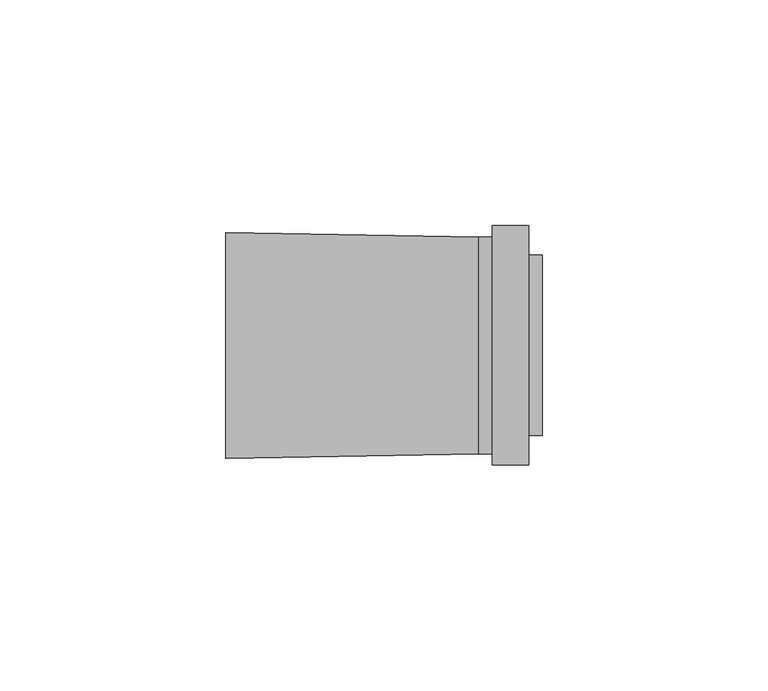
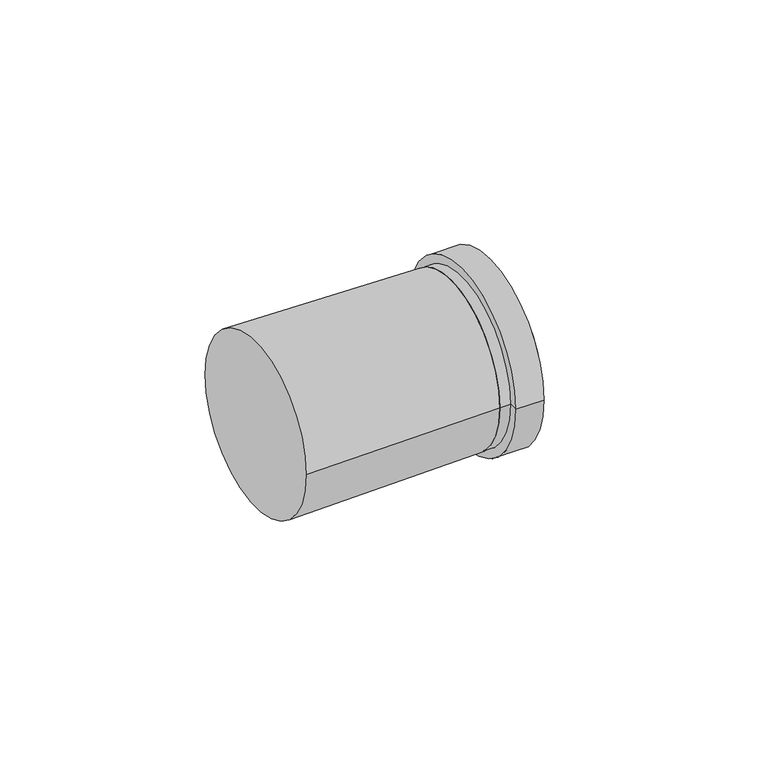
"""IFC4 building model written with IfcOpenShell, lengths in millimetres: cable carrier fitting geometry, КНС_МуфтаТрубаКоробка_IP67_DKC : Коробка."""

import ifcopenshell
import ifcopenshell.guid

model = None  # the IFC model being written
_history = None  # IfcOwnerHistory: only IFC2X3 demands one
_inside = {}  # id of a spatial element -> (the spatial element, [elements in it])
_under = {}  # id of a project, library or spatial element -> (it, [spatial elements below it])
_declared = {}  # id of a project -> (the project, [libraries it declares])
_typed = {}  # id of a type object -> (the type object, [elements of that type])
_made_of = {}  # id of a material, layer set ... -> (it, [elements and type objects made of it])


def new_model(schema):
    """Start an empty IFC model of exactly this schema.

    Asked for "IFC4X3", IfcOpenShell would pick the latest addendum, in which some entities
    have other attributes; the version numbers below select the first issue.
    IFC2X3 requires an IfcOwnerHistory on every rooted entity: one is made here for all.
    """
    global model, _history
    if schema == "IFC4X3":
        model = ifcopenshell.file(schema_version=(4, 3, 0, 0))
    else:
        model = ifcopenshell.file(schema=schema)
    _inside.clear()
    _under.clear()
    _declared.clear()
    _typed.clear()
    _made_of.clear()
    _history = None
    if model.schema == "IFC2X3":
        org = make("IfcOrganization", Name="unknown")
        user = make(
            "IfcPersonAndOrganization",
            ThePerson=make("IfcPerson", FamilyName="unknown"),
            TheOrganization=org,
        )
        app = make(
            "IfcApplication",
            ApplicationDeveloper=org,
            Version="unknown",
            ApplicationFullName="unknown",
            ApplicationIdentifier="unknown",
        )
        _history = make(
            "IfcOwnerHistory",
            OwningUser=user,
            OwningApplication=app,
            ChangeAction="ADDED",
            CreationDate=0,
        )
    return model


def make(cls, **values):
    """One entity of the class cls with the attributes given. An attribute that is None is left unset."""
    return model.create_entity(
        cls, **{name: value for name, value in values.items() if value is not None}
    )


def rooted(cls, **values):
    """An entity with a GlobalId (a new one), such as an element, a storey or a relation."""
    return make(cls, GlobalId=ifcopenshell.guid.new(), OwnerHistory=_history, **values)


def si_unit(unit_type, name, prefix=None):
    """IfcSIUnit, for example si_unit("LENGTHUNIT", "METRE", prefix="MILLI")."""
    return make("IfcSIUnit", UnitType=unit_type, Prefix=prefix, Name=name)


def assignment(units):
    """IfcUnitAssignment: the units of a project."""
    return None if units is None else make("IfcUnitAssignment", Units=units)


def point(xyz):
    """IfcCartesianPoint."""
    return None if xyz is None else make("IfcCartesianPoint", Coordinates=xyz)


def direction(xyz):
    """IfcDirection."""
    return None if xyz is None else make("IfcDirection", DirectionRatios=xyz)


def frame(location, z_axis=None, x_axis=None):
    """IfcAxis2Placement3D, a coordinate frame: its origin and axes. An axis left out is left unset."""
    return make(
        "IfcAxis2Placement3D",
        Location=point(location),
        Axis=direction(z_axis),
        RefDirection=direction(x_axis),
    )


def origin():
    """The frame at (0, 0, 0) with its axes left unset."""
    return frame((0.0, 0.0, 0.0))


def place(relative_to, where):
    """IfcLocalPlacement: puts the frame where relative to a parent placement (None: the world)."""
    return make(
        "IfcLocalPlacement", PlacementRelTo=relative_to, RelativePlacement=where
    )


def context(
    kind, dimensions, precision=None, world=None, true_north=None, identifier=None
):
    """IfcGeometricRepresentationContext, for example the 3D "Model" context."""
    return make(
        "IfcGeometricRepresentationContext",
        ContextIdentifier=identifier,
        ContextType=kind,
        CoordinateSpaceDimension=dimensions,
        Precision=precision,
        WorldCoordinateSystem=world,
        TrueNorth=true_north,
    )


def project(units=None, contexts=None):
    """IfcProject with its units and contexts."""
    return rooted(
        "IfcProject",
        Name="project",
        RepresentationContexts=contexts,
        UnitsInContext=assignment(units),
    )


def spatial(cls, under=None, at=None, **own):
    """A site, building, storey or space (cls), placed at a placement, below another one or the project."""
    s = rooted(cls, ObjectPlacement=at, **own)
    if under is not None:
        _under.setdefault(under.id(), (under, []))[1].append(s)
    return s


def polyline(points):
    """IfcPolyline through the points."""
    return make("IfcPolyline", Points=[point(p) for p in points])


def circle_curve(where, radius):
    """IfcCircle in the frame where."""
    return make("IfcCircle", Position=where, Radius=radius)


def shape(context_of_items, identifier, shape_type, items):
    """IfcShapeRepresentation: the items that make up one representation, for example the "Body"."""
    return make(
        "IfcShapeRepresentation",
        ContextOfItems=context_of_items,
        RepresentationIdentifier=identifier,
        RepresentationType=shape_type,
        Items=items,
    )


def source(mapping_origin, context_of_items, identifier, shape_type, items):
    """IfcRepresentationMap: a shape defined once, which mapped items show again and again."""
    return make(
        "IfcRepresentationMap",
        MappingOrigin=mapping_origin,
        MappedRepresentation=shape(context_of_items, identifier, shape_type, items),
    )


def transform(
    local_origin,
    x_axis=None,
    y_axis=None,
    z_axis=None,
    scale=None,
    scale2=None,
    scale3=None,
    uniform=True,
):
    """IfcCartesianTransformationOperator3D, or its non-uniform kind. x_axis, y_axis, z_axis: its Axis1, 2, 3."""
    if uniform:
        return make(
            "IfcCartesianTransformationOperator3D",
            Axis1=direction(x_axis),
            Axis2=direction(y_axis),
            LocalOrigin=point(local_origin),
            Scale=scale,
            Axis3=direction(z_axis),
        )
    return make(
        "IfcCartesianTransformationOperator3DnonUniform",
        Axis1=direction(x_axis),
        Axis2=direction(y_axis),
        LocalOrigin=point(local_origin),
        Scale=scale,
        Axis3=direction(z_axis),
        Scale2=scale2,
        Scale3=scale3,
    )


def mapped(mapping_source, mapping_target):
    """IfcMappedItem: shows the shape of a source again, moved by a transform."""
    return make(
        "IfcMappedItem", MappingSource=mapping_source, MappingTarget=mapping_target
    )


def made_of(thing, what):
    """Note that an element or type object is made of a material, layer set ...; save() writes the relation."""
    if what is not None:
        _made_of.setdefault(what.id(), (what, []))[1].append(thing)
    return thing


def element(
    cls,
    number,
    at=None,
    inside=None,
    cuts=None,
    type_object=None,
    material=None,
    context=None,
    identifier="Body",
    shape_type=None,
    held_by="IfcProductDefinitionShape",
    body=None,
    shapes=None,
    **own,
):
    """One element of the class cls, such as IfcWall. Its Tag is "e" and its number.

    at: its placement. inside: the storey or other place that contains it. cuts: it is an
    opening in that element (IfcRelVoidsElement). A single representation is given by context,
    identifier, shape_type and body (its items); several are given by shapes. held_by: the class
    of the entity that holds the representations. save() writes the other relations.
    """
    e = rooted(cls, Tag="e%d" % number, ObjectPlacement=at, **own)
    if body is not None:
        shapes = [shape(context, identifier, shape_type, body)]
    if shapes is not None:
        e.Representation = make(held_by, Representations=shapes)
    if inside is not None:
        _inside.setdefault(inside.id(), (inside, []))[1].append(e)
    if cuts is not None:
        rooted(
            "IfcRelVoidsElement", RelatingBuildingElement=cuts, RelatedOpeningElement=e
        )
    if type_object is not None:
        _typed.setdefault(type_object.id(), (type_object, []))[1].append(e)
    return made_of(e, material)


def aggregate(whole, parts):
    """IfcRelAggregates: a whole, such as a stair, and the parts it consists of."""
    return rooted("IfcRelAggregates", RelatingObject=whole, RelatedObjects=parts)


def save(model, path):
    """Write the relations noted so far, then the file.

    IfcRelAggregates (storeys below a building ...), IfcRelContainedInSpatialStructure (elements
    in a storey), IfcRelDefinesByType, IfcRelAssociatesMaterial and IfcRelDeclares: one each for
    every whole, place, type object, material and project.
    """
    for whole, parts in _under.values():
        aggregate(whole, parts)
    for where, things in _inside.values():
        rooted(
            "IfcRelContainedInSpatialStructure",
            RelatedElements=things,
            RelatingStructure=where,
        )
    for kind, things in _typed.values():
        rooted("IfcRelDefinesByType", RelatedObjects=things, RelatingType=kind)
    for what, things in _made_of.values():
        rooted("IfcRelAssociatesMaterial", RelatedObjects=things, RelatingMaterial=what)
    for by, libraries in _declared.values():
        rooted("IfcRelDeclares", RelatingContext=by, RelatedDefinitions=libraries)
    model.write(path)


def plane_surface(at):
    """IfcPlane: the flat surface through the origin of the frame at, square to its z axis."""
    return make("IfcPlane", Position=at)


def cylinder_surface(at, radius):
    """IfcCylindricalSurface: all points at the distance radius from the z axis of the frame at."""
    return make("IfcCylindricalSurface", Position=at, Radius=radius)


def revolved_surface(curve, axis_point, axis_direction):
    """IfcSurfaceOfRevolution: the curve turned about the line through axis_point along axis_direction."""
    return make(
        "IfcSurfaceOfRevolution",
        SweptCurve=make("IfcArbitraryOpenProfileDef", ProfileType="CURVE", Curve=curve),
        AxisPosition=make("IfcAxis1Placement", Location=point(axis_point), Axis=direction(axis_direction)),
    )


def advanced_brep(points, edges, surfaces, faces):
    """IfcAdvancedBrep: a solid bounded by faces that lie on surfaces and meet in shared edges.

    An edge is (start, end): straight between two places in points (the first is 0);
    or (start, end, curve); or (start, end, curve, False) where it runs against its curve.
    A face is (place in surfaces, loops), or (place, loops, False) where it looks against
    its surface's normal. A loop lists edges by number (the first is 1), with a minus sign
    where the edge is run from its end to its start. The first loop is the outer one.
    """
    corners = [point(p) for p in points]
    vertices = [make("IfcVertexPoint", VertexGeometry=c) for c in corners]
    made = []
    for start, end, *more in edges:
        made.append(
            make(
                "IfcEdgeCurve",
                EdgeStart=vertices[start],
                EdgeEnd=vertices[end],
                EdgeGeometry=more[0] if more else make("IfcPolyline", Points=[corners[start], corners[end]]),
                SameSense=more[1] if len(more) > 1 else True,
            )
        )
    hull = []
    for where, loops, *sense in faces:
        bounds = []
        for j, loop in enumerate(loops):
            ring = [make("IfcOrientedEdge", EdgeElement=made[abs(k) - 1], Orientation=k > 0) for k in loop]
            bounds.append(
                make(
                    "IfcFaceOuterBound" if j == 0 else "IfcFaceBound",
                    Bound=make("IfcEdgeLoop", EdgeList=ring),
                    Orientation=True,
                )
            )
        hull.append(make("IfcAdvancedFace", Bounds=bounds, FaceSurface=surfaces[where], SameSense=sense[0] if sense else True))
    return make("IfcAdvancedBrep", Outer=make("IfcClosedShell", CfsFaces=hull))


def cable_carrier_fitting_f387fdf7(model_context):
    return source(origin(), model_context, "Body", "AdvancedBrep", [
        advanced_brep(
        [(35.0, -20.0, 0.0), (35.0, 20.0, 0.0), (35.0, 0.0, 0.0), (32.0, -20.0, 0.0), (32.0, 20.0, 0.0), (32.0, -26.5, 0.0), (32.0, 26.5, 0.0), (24.0, -26.5, 0.0), (24.0, 26.5, 0.0), (24.0, -24.0, 0.0), (24.0, 24.0, 0.0), (21.0, -24.0, 0.0), (21.0, 24.0, 0.0), (21.0, 0.0, 0.0)],
        [
            (0, 1, circle_curve(frame((35.0, 0.0, 0.0), z_axis=(1.0, 0.0, 0.0), x_axis=(0.0, 1.0, 0.0)), 20.0)),
            (1, 2),
            (2, 0),
            (1, 0, circle_curve(frame((35.0, 0.0, 0.0), z_axis=(1.0, 0.0, 0.0), x_axis=(0.0, 1.0, 0.0)), 20.0)),
            (3, 4, circle_curve(frame((32.0, 0.0, 0.0), z_axis=(1.0, 0.0, 0.0), x_axis=(0.0, 1.0, 0.0)), 20.0)),
            (4, 1),
            (0, 3),
            (4, 3, circle_curve(frame((32.0, 0.0, 0.0), z_axis=(1.0, 0.0, 0.0), x_axis=(0.0, 1.0, 0.0)), 20.0)),
            (5, 6, circle_curve(frame((32.0, 0.0, 0.0), z_axis=(1.0, 0.0, 0.0), x_axis=(0.0, 1.0, 0.0)), 26.5)),
            (6, 4),
            (3, 5),
            (6, 5, circle_curve(frame((32.0, 0.0, 0.0), z_axis=(1.0, 0.0, 0.0), x_axis=(0.0, 1.0, 0.0)), 26.5)),
            (7, 8, circle_curve(frame((24.0, 0.0, 0.0), z_axis=(1.0, 0.0, 0.0), x_axis=(0.0, 1.0, 0.0)), 26.5)),
            (8, 6),
            (5, 7),
            (8, 7, circle_curve(frame((24.0, 0.0, 0.0), z_axis=(1.0, 0.0, 0.0), x_axis=(0.0, 1.0, 0.0)), 26.5)),
            (9, 10, circle_curve(frame((24.0, 0.0, 0.0), z_axis=(1.0, 0.0, 0.0), x_axis=(0.0, 1.0, 0.0)), 24.0)),
            (10, 8),
            (7, 9),
            (10, 9, circle_curve(frame((24.0, 0.0, 0.0), z_axis=(1.0, 0.0, 0.0), x_axis=(0.0, 1.0, 0.0)), 24.0)),
            (11, 12, circle_curve(frame((21.0, 0.0, 0.0), z_axis=(1.0, 0.0, 0.0), x_axis=(0.0, 1.0, 0.0)), 24.0)),
            (12, 10),
            (9, 11),
            (12, 11, circle_curve(frame((21.0, 0.0, 0.0), z_axis=(1.0, 0.0, 0.0), x_axis=(0.0, 1.0, 0.0)), 24.0)),
            (13, 12),
            (11, 13),
        ],
        [
            plane_surface(frame((35.0, 0.0, 0.0), z_axis=(1.0, 0.0, 0.0), x_axis=(0.0, 1.0, 0.0))),
            cylinder_surface(frame((1530.5, 0.0, 0.0), z_axis=(-1.0, 0.0, 0.0), x_axis=(0.0, 1.0, 0.0)), 20.0),
            plane_surface(frame((32.0, 0.0, 0.0), z_axis=(1.0, 0.0, 0.0), x_axis=(0.0, 1.0, 0.0))),
            cylinder_surface(frame((1530.5, 0.0, 0.0), z_axis=(-1.0, 0.0, 0.0), x_axis=(0.0, 1.0, 0.0)), 26.5),
            plane_surface(frame((24.0, 0.0, 0.0), z_axis=(-1.0, 0.0, 0.0), x_axis=(0.0, 1.0, 0.0))),
            cylinder_surface(frame((1530.5, 0.0, 0.0), z_axis=(-1.0, 0.0, 0.0), x_axis=(0.0, 1.0, 0.0)), 24.0),
            plane_surface(frame((21.0, 0.0, 0.0), z_axis=(-1.0, 0.0, 0.0), x_axis=(0.0, 1.0, 0.0))),
        ],
        [
            (0, [[1, 2, 3]]),
            (0, [[4, -3, -2]]),
            (1, [[5, 6, -1, 7]]),
            (1, [[8, -7, -4, -6]]),
            (2, [[9, 10, -5, 11]]),
            (2, [[12, -11, -8, -10]]),
            (3, [[13, 14, -9, 15]]),
            (3, [[16, -15, -12, -14]]),
            (4, [[17, 18, -13, 19]]),
            (4, [[20, -19, -16, -18]]),
            (5, [[21, 22, -17, 23]]),
            (5, [[24, -23, -20, -22]]),
            (6, [[25, -21, 26]]),
            (6, [[-26, -24, -25]]),
        ],
    ),
        advanced_brep(
        [(-35.0, -25.0, 0.0), (-35.0, 25.0, 0.0), (21.0, -24.0, 0.0), (21.0, 24.0, 0.0)],
        [
            (0, 1, circle_curve(frame((-35.0, 0.0, 0.0), z_axis=(-1.0, 0.0, 0.0), x_axis=(0.0, -1.0, 0.0)), 25.0)),
            (1, 0, circle_curve(frame((-35.0, 0.0, 0.0), z_axis=(-1.0, 0.0, 0.0), x_axis=(0.0, 1.0, 0.0)), 25.0)),
            (2, 3, circle_curve(frame((21.0, 0.0, 0.0), z_axis=(1.0, 0.0, 0.0), x_axis=(0.0, 1.0, 0.0)), 24.0)),
            (3, 2, circle_curve(frame((21.0, 0.0, 0.0), z_axis=(1.0, 0.0, 0.0), x_axis=(0.0, -1.0, 0.0)), 24.0)),
            (2, 0),
            (1, 3),
        ],
        [
            plane_surface(frame((-35.0, 0.0, 0.0), z_axis=(-1.0, 0.0, 0.0), x_axis=(0.0, 0.0, -1.0))),
            plane_surface(frame((21.0, 0.0, 0.0), z_axis=(1.0, 0.0, 0.0), x_axis=(0.0, 0.0, -1.0))),
            revolved_surface(polyline([(21.0, -24.0, 0.0), (-35.0, -25.0, 0.0)]), (1365.0, 0.0, 0.0), (-1.0, 0.0, 0.0)),
            revolved_surface(polyline([(21.0, 24.0, 0.0), (-35.0, 25.0, 0.0)]), (1365.0, 0.0, 0.0), (-1.0, 0.0, 0.0)),
        ],
        [
            (0, [[1, 2]]),
            (1, [[3, 4]]),
            (2, [[-3, 5, -2, 6]]),
            (3, [[-4, -6, -1, -5]]),
        ],
    ),
    ])


if __name__ == "__main__":
    model = new_model("IFC4")
    model_context = context("Model", 3, world=origin())
    ifc_project = project(units=[si_unit("LENGTHUNIT", "METRE", prefix="MILLI")], contexts=[model_context])
    site = spatial("IfcSite", under=ifc_project)
    building = spatial("IfcBuilding", under=site)
    placement = place(None, origin())
    cable_carrier_fitting_shape = cable_carrier_fitting_f387fdf7(model_context)
    element("IfcCableCarrierFitting", 1, ObjectType="КНС_МуфтаТрубаКоробка_IP67_DKC : Коробка", at=placement, inside=building, context=model_context, shape_type="MappedRepresentation", body=[
        mapped(cable_carrier_fitting_shape, transform((0.0, 0.0, 0.0), x_axis=(1.0, 0.0, 0.0), y_axis=(0.0, 1.0, 0.0), z_axis=(0.0, 0.0, 1.0))),
    ])
    save(model, "model.ifc")
